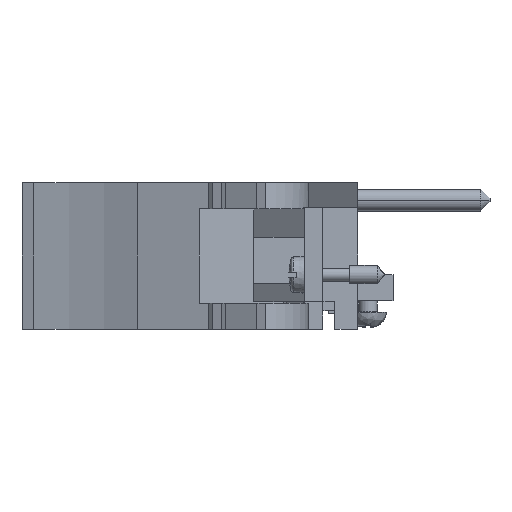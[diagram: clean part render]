
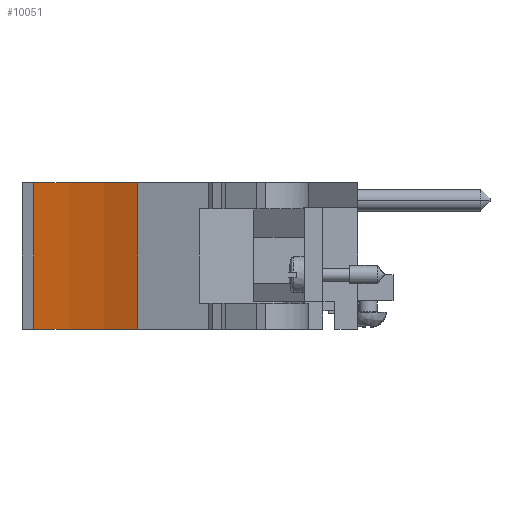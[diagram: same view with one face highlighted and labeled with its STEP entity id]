
A CAD part, front view. The second image highlights one B-rep face of the part: STEP entity #10051.
In plain terms, the highlighted cylindrical face has radius 51.46 mm (diameter 102.919 mm), a partial arc.
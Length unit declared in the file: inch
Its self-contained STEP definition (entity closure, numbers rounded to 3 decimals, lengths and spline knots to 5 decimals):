
#1048=CARTESIAN_POINT('',(-1.97433,-5.95079,0.696));
#1049=DIRECTION('',(0.,0.,1.));
#1050=DIRECTION('',(0.435,0.9,0.));
#1051=AXIS2_PLACEMENT_3D('',#1048,#1049,#1050);
#1519=CARTESIAN_POINT('',(-1.97433,-5.95079,-0.092));
#1520=DIRECTION('',(0.,0.,1.));
#1521=DIRECTION('',(0.435,0.9,0.));
#1522=AXIS2_PLACEMENT_3D('',#1519,#1520,#1521);
#1737=DIRECTION('',(0.,0.,1.));
#1738=VECTOR('',#1737,0.788);
#1739=CARTESIAN_POINT('',(-1.651,-3.95079,-0.092));
#1740=LINE('',#1739,#1738);
#1745=DIRECTION('',(0.,0.,1.));
#1746=VECTOR('',#1745,0.788);
#1747=CARTESIAN_POINT('',(-1.09303,-4.12655,-0.092));
#1748=LINE('',#1747,#1746);
#6530=CARTESIAN_POINT('',(-1.09303,-4.12655,-0.092));
#6531=CARTESIAN_POINT('',(-1.651,-3.95079,-0.092));
#6532=VERTEX_POINT('',#6530);
#6533=VERTEX_POINT('',#6531);
#6534=CARTESIAN_POINT('',(-1.09303,-4.12655,0.696));
#6535=CARTESIAN_POINT('',(-1.651,-3.95079,0.696));
#6536=VERTEX_POINT('',#6534);
#6537=VERTEX_POINT('',#6535);
#10039=CARTESIAN_POINT('',(-1.97433,-5.95079,0.696));
#10040=DIRECTION('',(0.,0.,1.));
#10041=DIRECTION('',(0.,1.,0.));
#10042=AXIS2_PLACEMENT_3D('',#10039,#10040,#10041);
#10043=CYLINDRICAL_SURFACE('',#10042,2.02597);
#10044=ORIENTED_EDGE('',*,*,#9757,.T.);
#10045=ORIENTED_EDGE('',*,*,#10031,.T.);
#10046=ORIENTED_EDGE('',*,*,#9192,.F.);
#10048=ORIENTED_EDGE('',*,*,#10047,.F.);
#10049=EDGE_LOOP('',(#10044,#10045,#10046,#10048));
#10050=FACE_OUTER_BOUND('',#10049,.F.);
#10051=ADVANCED_FACE('',(#10050),#10043,.F.);
#1052=CIRCLE('',#1051,2.02597);
#1523=CIRCLE('',#1522,2.02597);
#9192=EDGE_CURVE('',#6536,#6537,#1052,.T.);
#9757=EDGE_CURVE('',#6532,#6533,#1523,.T.);
#10031=EDGE_CURVE('',#6533,#6537,#1740,.T.);
#10047=EDGE_CURVE('',#6532,#6536,#1748,.T.);
